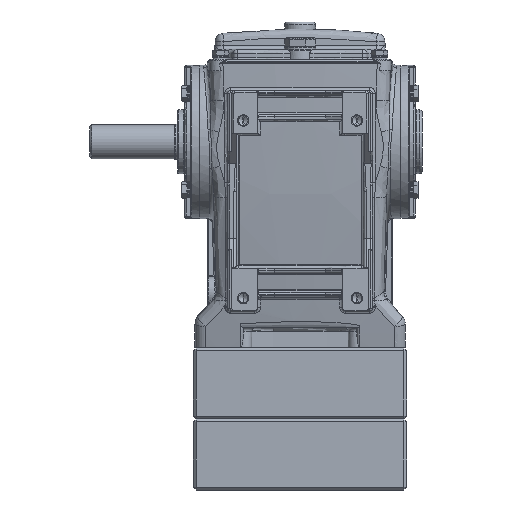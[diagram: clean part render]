
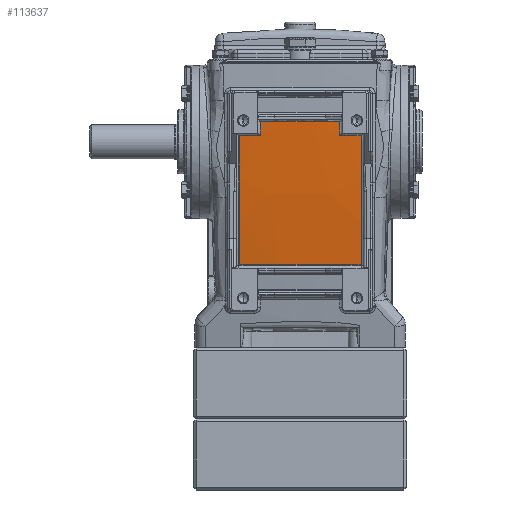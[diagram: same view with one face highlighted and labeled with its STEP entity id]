
A CAD part, front view. The second image highlights one B-rep face of the part: STEP entity #113637.
In plain terms, the highlighted spherical face has radius 1000 mm.
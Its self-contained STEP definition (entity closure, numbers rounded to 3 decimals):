
#1547 = CARTESIAN_POINT ( 'NONE',  ( 0., 938.4, 93. ) ) ;
#1549 = DIRECTION ( 'NONE',  ( 0., 0.259, -0.966 ) ) ;
#1551 = DIRECTION ( 'NONE',  ( 0., -0.966, -0.259 ) ) ;
#46924 = AXIS2_PLACEMENT_3D ( 'NONE', #97518, #97521, #97523 ) ;
#46925 = AXIS2_PLACEMENT_3D ( 'NONE', #97533, #97536, #97538 ) ;
#46927 = AXIS2_PLACEMENT_3D ( 'NONE', #97526, #97528, #97531 ) ;
#46929 = AXIS2_PLACEMENT_3D ( 'NONE', #97497, #97506, #97509 ) ;
#46931 = AXIS2_PLACEMENT_3D ( 'NONE', #97511, #97514, #97516 ) ;
#46932 = AXIS2_PLACEMENT_3D ( 'NONE', #97540, #97543, #97545 ) ;
#46933 = AXIS2_PLACEMENT_3D ( 'NONE', #97548, #97550, #97553 ) ;
#46934 = AXIS2_PLACEMENT_3D ( 'NONE', #97555, #97557, #97560 ) ;
#50988 = CIRCLE ( 'NONE', #46929, 999.609 ) ;
#50991 = CIRCLE ( 'NONE', #46931, 996.887 ) ;
#50996 = CIRCLE ( 'NONE', #46924, 999.609 ) ;
#50999 = CIRCLE ( 'NONE', #46927, 996.047 ) ;
#51002 = CIRCLE ( 'NONE', #46925, 999.079 ) ;
#51005 = CIRCLE ( 'NONE', #46932, 983.732 ) ;
#51010 = CIRCLE ( 'NONE', #46933, 996.047 ) ;
#51013 = CIRCLE ( 'NONE', #46934, 999.079 ) ;
#67574 = CARTESIAN_POINT ( 'NONE',  ( -42.914, -44.396, -86.641 ) ) ;
#67598 = CARTESIAN_POINT ( 'NONE',  ( -42.914, -56.723, 4.178 ) ) ;
#67605 = CARTESIAN_POINT ( 'NONE',  ( -27.944, -57.255, 4.178 ) ) ;
#70603 = FACE_OUTER_BOUND ( 'NONE', #86378, .T. ) ;
#70620 = AXIS2_PLACEMENT_3D ( 'NONE', #1547, #1549, #1551 ) ;
#70622 = SPHERICAL_SURFACE ( 'NONE', #70620, 1000. ) ;
#86378 = EDGE_LOOP ( 'NONE', ( #119842, #119847, #119844, #119849, #119852, #119856, #119858, #119860 ) ) ;
#97497 = CARTESIAN_POINT ( 'NONE',  ( -27.944, 938.4, 93. ) ) ;
#97506 = DIRECTION ( 'NONE',  ( 1., 0., 0. ) ) ;
#97509 = DIRECTION ( 'NONE',  ( 0., 1., 0. ) ) ;
#97511 = CARTESIAN_POINT ( 'NONE',  ( 0., 938.4, 14.158 ) ) ;
#97514 = DIRECTION ( 'NONE',  ( 0., 0., -1. ) ) ;
#97516 = DIRECTION ( 'NONE',  ( 1., 0., 0. ) ) ;
#97518 = CARTESIAN_POINT ( 'NONE',  ( 27.944, 938.4, 93. ) ) ;
#97521 = DIRECTION ( 'NONE',  ( -1., 0., 0. ) ) ;
#97523 = DIRECTION ( 'NONE',  ( 0., -1., 0. ) ) ;
#97526 = CARTESIAN_POINT ( 'NONE',  ( 0., 938.4, 4.178 ) ) ;
#97528 = DIRECTION ( 'NONE',  ( 0., 0., -1. ) ) ;
#97531 = DIRECTION ( 'NONE',  ( 1., 0., 0. ) ) ;
#97533 = CARTESIAN_POINT ( 'NONE',  ( 42.914, 938.4, 93. ) ) ;
#97536 = DIRECTION ( 'NONE',  ( -1., 0., 0. ) ) ;
#97538 = DIRECTION ( 'NONE',  ( 0., 0., 1. ) ) ;
#97540 = CARTESIAN_POINT ( 'NONE',  ( 0., 938.4, -86.641 ) ) ;
#97543 = DIRECTION ( 'NONE',  ( 0., 0., 1. ) ) ;
#97545 = DIRECTION ( 'NONE',  ( 1., 0., 0. ) ) ;
#97548 = CARTESIAN_POINT ( 'NONE',  ( 0., 938.4, 4.178 ) ) ;
#97550 = DIRECTION ( 'NONE',  ( 0., 0., -1. ) ) ;
#97553 = DIRECTION ( 'NONE',  ( 1., 0., 0. ) ) ;
#97555 = CARTESIAN_POINT ( 'NONE',  ( -42.914, 938.4, 93. ) ) ;
#97557 = DIRECTION ( 'NONE',  ( 1., 0., 0. ) ) ;
#97560 = DIRECTION ( 'NONE',  ( 0., 0., -1. ) ) ;
#113637 = ADVANCED_FACE ( 'NONE', ( #70603 ), #70622, .T. ) ;
#119842 = ORIENTED_EDGE ( 'NONE', *, *, #135673, .T. ) ;
#119844 = ORIENTED_EDGE ( 'NONE', *, *, #135671, .T. ) ;
#119847 = ORIENTED_EDGE ( 'NONE', *, *, #135674, .T. ) ;
#119849 = ORIENTED_EDGE ( 'NONE', *, *, #135669, .T. ) ;
#119852 = ORIENTED_EDGE ( 'NONE', *, *, #135666, .T. ) ;
#119856 = ORIENTED_EDGE ( 'NONE', *, *, #135664, .T. ) ;
#119858 = ORIENTED_EDGE ( 'NONE', *, *, #135662, .T. ) ;
#119860 = ORIENTED_EDGE ( 'NONE', *, *, #135659, .T. ) ;
#126016 = VERTEX_POINT ( 'NONE', #131128 ) ;
#126023 = VERTEX_POINT ( 'NONE', #131136 ) ;
#126027 = VERTEX_POINT ( 'NONE', #131140 ) ;
#126041 = VERTEX_POINT ( 'NONE', #131155 ) ;
#126045 = VERTEX_POINT ( 'NONE', #131160 ) ;
#131128 = CARTESIAN_POINT ( 'NONE',  ( -27.944, -58.095, 14.158 ) ) ;
#131136 = CARTESIAN_POINT ( 'NONE',  ( 27.944, -58.095, 14.158 ) ) ;
#131140 = CARTESIAN_POINT ( 'NONE',  ( 27.944, -57.255, 4.178 ) ) ;
#131155 = CARTESIAN_POINT ( 'NONE',  ( 42.914, -56.723, 4.178 ) ) ;
#131160 = CARTESIAN_POINT ( 'NONE',  ( 42.914, -44.396, -86.641 ) ) ;
#135659 = EDGE_CURVE ( 'NONE', #126016, #153547, #50988, .T. ) ;
#135662 = EDGE_CURVE ( 'NONE', #126023, #126016, #50991, .T. ) ;
#135664 = EDGE_CURVE ( 'NONE', #126027, #126023, #50996, .T. ) ;
#135666 = EDGE_CURVE ( 'NONE', #126041, #126027, #50999, .T. ) ;
#135669 = EDGE_CURVE ( 'NONE', #126045, #126041, #51002, .T. ) ;
#135671 = EDGE_CURVE ( 'NONE', #153528, #126045, #51005, .T. ) ;
#135673 = EDGE_CURVE ( 'NONE', #153547, #153542, #51010, .T. ) ;
#135674 = EDGE_CURVE ( 'NONE', #153542, #153528, #51013, .T. ) ;
#153528 = VERTEX_POINT ( 'NONE', #67574 ) ;
#153542 = VERTEX_POINT ( 'NONE', #67598 ) ;
#153547 = VERTEX_POINT ( 'NONE', #67605 ) ;
